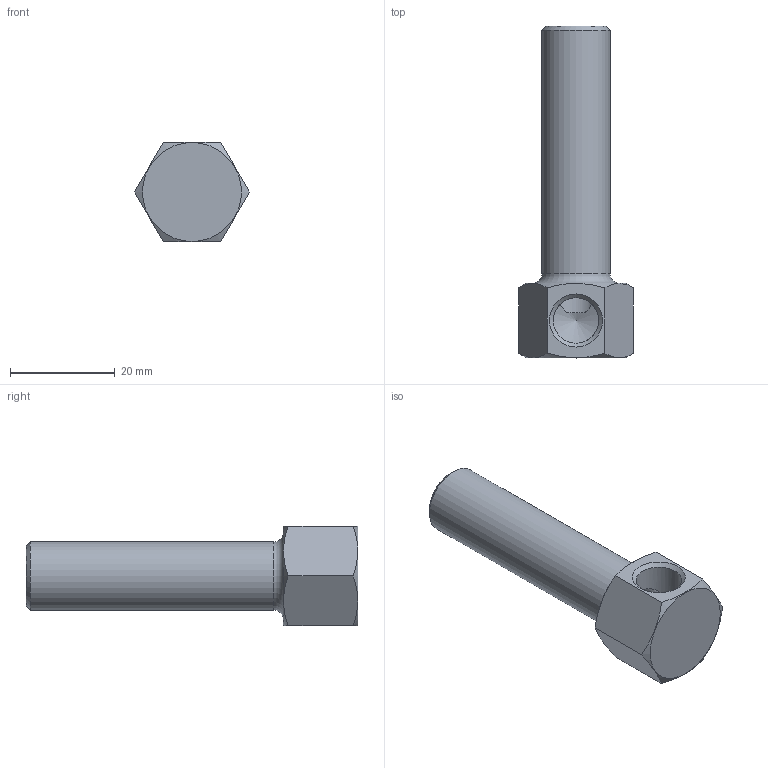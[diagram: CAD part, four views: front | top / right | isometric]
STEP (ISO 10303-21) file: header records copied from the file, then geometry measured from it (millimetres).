
FILE_DESCRIPTION(/* description */ (''),/* implementation_level */ '2;1');
FILE_NAME(/* name */ 'C:/Users/drich/Desktop/1814B-2-1_2 v1.step',/* time_stamp */ '2019-12-29T15:30:00-06:00',/* author */ (''),/* organization */ (''),/* preprocessor_version */ 'ST-DEVELOPER v18',/* originating_system */ 'Autodesk Translation Framework v8.12.0.6',/* authorisation */ '');
FILE_SCHEMA (('AUTOMOTIVE_DESIGN { 1 0 10303 214 3 1 1 }'));
Length unit declared in the file: inch
Products named in the file (1): 1814B-2-1_2
Bounding box: 22 x 63.5 x 19.05 mm (x, y, z)
Volume: 7108 mm3; surface area: 5175.4 mm2
Topology: 1 solids, 1 shells, 22 faces, 57 edges, 37 vertices
Faces by surface type: plane 9, cone 8, cylinder 4, torus 1
Full cylindrical faces by diameter (mm): 8.707 x1, 8.712 x1, 13.032 x1
Entity records: 801 total; most frequent: CARTESIAN_POINT 256, ORIENTED_EDGE 112, DIRECTION 100, EDGE_CURVE 56, AXIS2_PLACEMENT_3D 42, VERTEX_POINT 37, EDGE_LOOP 25, FACE_OUTER_BOUND 22
